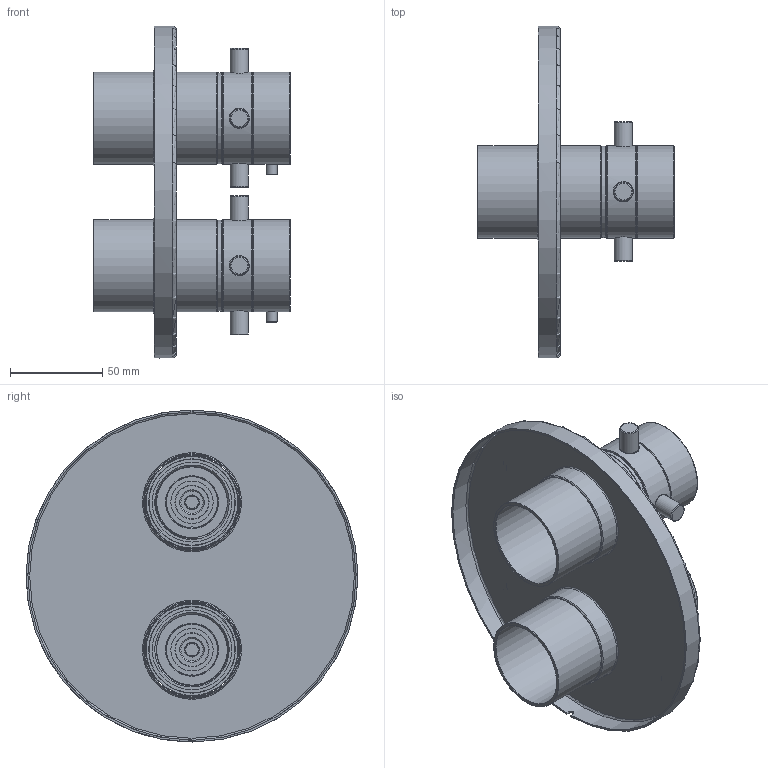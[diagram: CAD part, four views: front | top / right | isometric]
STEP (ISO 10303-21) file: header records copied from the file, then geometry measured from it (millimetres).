
FILE_DESCRIPTION(/* description */ (''),/* implementation_level */ '2;1');
FILE_NAME(/* name */ 'X:\Collections\Moderne\Pallace\PA88\TPATM88+ 3D.stp',/* time_stamp */ '2017-05-04T07:14:34-04:00',/* author */ ('simono'),/* organization */ (''),/* preprocessor_version */ 'ST-DEVELOPER v15.6',/* originating_system */ 'Autodesk Inventor 2015',/* authorisation */ '');
FILE_SCHEMA (('AUTOMOTIVE_DESIGN { 1 0 10303 214 3 1 1 }'));
Length unit declared in the file: millimetre
Products named in the file (20): 050-688; 053-004; 052-071; 002-797; 152-200; 1817; 001-269; 002-691; 152-120; 1823; 002-612; 009-078; 009-077; 390-132; 1925; 1825; 152-160; 1822; 1650; TPA88
Assembly tree (26 placements, depth 5):
  TPA88
    050-688
    053-004  x2
    052-071  x2
    1817  x2
      002-797
      152-200
    1650  x2
      1825
        001-269
        1823  x2
          002-691
          152-120
        1925
          002-612
          009-078
          009-077
          390-132
      1822
        002-691
        152-160
Bounding box: 106.78 x 180 x 180 mm (x, y, z)
Volume: 144090.9 mm3; surface area: 175548.2 mm2
Topology: 35 solids, 35 shells, 1212 faces, 3005 edges, 1943 vertices
Faces by surface type: plane 503, cylinder 229, bspline 194, cone 186, torus 96, sphere 4
Full cylindrical faces by diameter (mm): 2.2 x2, 2.5 x4, 3 x2, 3.242 x2, 4.134 x10, 5 x12, 6 x4, 8 x2, 10 x8, 10.5 x8, 12 x2, 15 x2, 18 x2, 19 x2, 19.75 x2, 21 x2, 23 x2, 25 x2, 28.2 x4, 29.2 x2, 32.2 x4, 34.3 x4, 35.3 x2, 37.5 x2, 43.2 x2, 45 x2, 46 x2, 46.6 x2, 47 x4, 49.5 x2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
Entity records: 23680 total; most frequent: CARTESIAN_POINT 10613, ORIENTED_EDGE 2626, DIRECTION 2392, EDGE_CURVE 1313, VERTEX_POINT 917, AXIS2_PLACEMENT_3D 883, EDGE_LOOP 768, LINE 626
